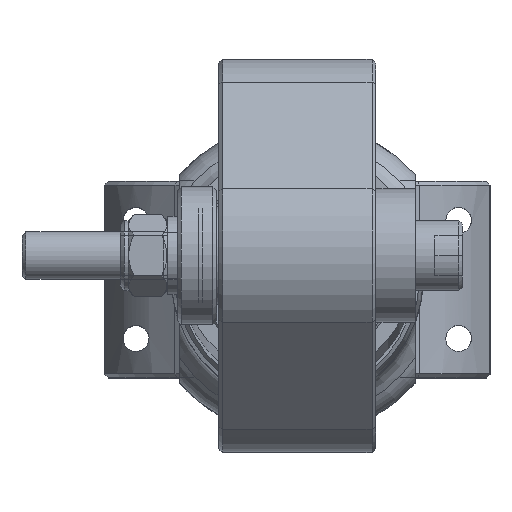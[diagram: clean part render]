
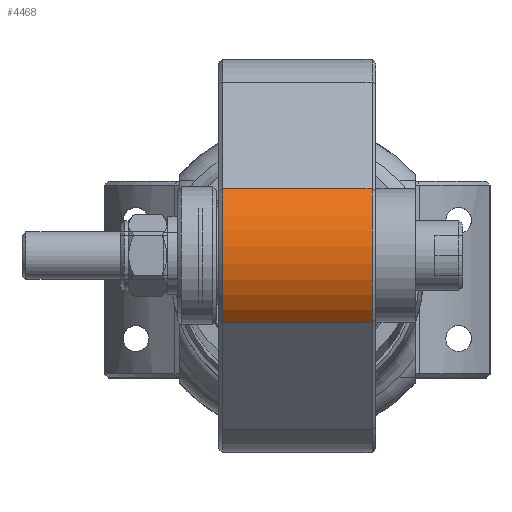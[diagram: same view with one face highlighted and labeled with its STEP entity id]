
A CAD part, top view. The second image highlights one B-rep face of the part: STEP entity #4468.
In plain terms, the highlighted cylindrical face has radius 24 mm (diameter 48 mm), a partial arc.
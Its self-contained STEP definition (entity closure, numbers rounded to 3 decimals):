
#476=LINE('',#6743,#732);
#477=LINE('',#6748,#733);
#732=VECTOR('',#5493,1000.);
#733=VECTOR('',#5496,1000.);
#1109=CYLINDRICAL_SURFACE('',#4866,24.);
#1331=ORIENTED_EDGE('',*,*,#2324,.F.);
#1332=ORIENTED_EDGE('',*,*,#2325,.T.);
#1333=ORIENTED_EDGE('',*,*,#2326,.T.);
#1334=ORIENTED_EDGE('',*,*,#2327,.T.);
#2324=EDGE_CURVE('',#2830,#2831,#476,.T.);
#2325=EDGE_CURVE('',#2830,#2832,#3168,.T.);
#2326=EDGE_CURVE('',#2832,#2833,#477,.T.);
#2327=EDGE_CURVE('',#2833,#2831,#3169,.F.);
#2830=VERTEX_POINT('',#6744);
#2831=VERTEX_POINT('',#6745);
#2832=VERTEX_POINT('',#6747);
#2833=VERTEX_POINT('',#6749);
#3168=CIRCLE('',#4867,24.);
#3169=CIRCLE('',#4868,24.);
#3378=EDGE_LOOP('',(#1331,#1332,#1333,#1334));
#3866=FACE_BOUND('',#3378,.T.);
#4468=ADVANCED_FACE('',(#3866),#1109,.T.);
#4866=AXIS2_PLACEMENT_3D('',#6742,#5491,#5492);
#4867=AXIS2_PLACEMENT_3D('',#6746,#5494,#5495);
#4868=AXIS2_PLACEMENT_3D('',#6750,#5497,#5498);
#5491=DIRECTION('',(0.,0.,1.));
#5492=DIRECTION('',(1.,0.,0.));
#5493=DIRECTION('',(0.,0.,1.));
#5494=DIRECTION('',(0.,0.,1.));
#5495=DIRECTION('',(1.,0.,0.));
#5496=DIRECTION('',(0.,0.,1.));
#5497=DIRECTION('',(0.,0.,1.));
#5498=DIRECTION('',(1.,0.,0.));
#6742=CARTESIAN_POINT('',(-79.396,67.204,-121.245));
#6743=CARTESIAN_POINT('',(-96.367,84.174,-121.245));
#6744=CARTESIAN_POINT('',(-96.367,84.174,1.));
#6745=CARTESIAN_POINT('',(-96.367,84.174,39.));
#6746=CARTESIAN_POINT('',(-79.396,67.204,1.));
#6747=CARTESIAN_POINT('',(-96.367,50.233,1.));
#6748=CARTESIAN_POINT('',(-96.367,50.233,-121.245));
#6749=CARTESIAN_POINT('',(-96.367,50.233,39.));
#6750=CARTESIAN_POINT('',(-79.396,67.204,39.));
